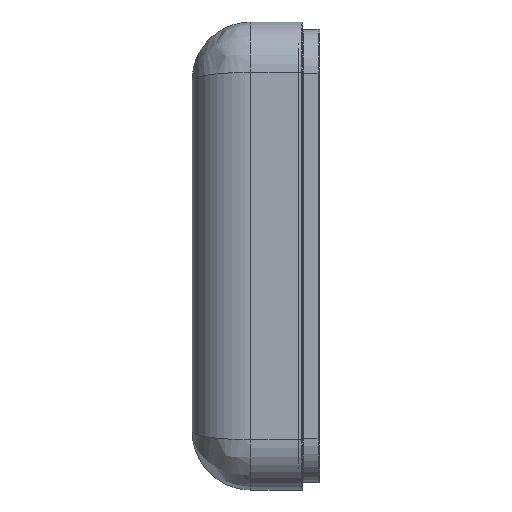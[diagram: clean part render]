
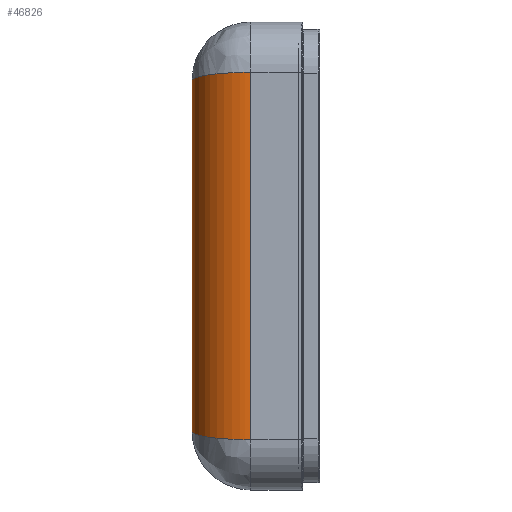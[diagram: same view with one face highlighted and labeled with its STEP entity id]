
A CAD part, left-side view. The second image highlights one B-rep face of the part: STEP entity #46826.
In plain terms, the highlighted cylindrical face has radius 25.4 mm (diameter 50.8 mm), a partial arc.
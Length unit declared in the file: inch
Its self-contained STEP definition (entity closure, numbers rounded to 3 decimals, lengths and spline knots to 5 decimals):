
#389 = VERTEX_POINT ( 'NONE', #29332 ) ;
#1954 =( BOUNDED_CURVE ( )  B_SPLINE_CURVE ( 3, ( #36981, #22550, #33208, #26101 ),
 .UNSPECIFIED., .F., .T. ) 
 B_SPLINE_CURVE_WITH_KNOTS ( ( 4, 4 ),
 ( 1.5708, 3.14159 ),
 .UNSPECIFIED. ) 
 CURVE ( )  GEOMETRIC_REPRESENTATION_ITEM ( )  RATIONAL_B_SPLINE_CURVE ( ( 1., 0.805, 0.805, 1. ) ) 
 REPRESENTATION_ITEM ( '' )  );
#2144 = CARTESIAN_POINT ( 'NONE',  ( -4.7476, 1.18, 3.13823 ) ) ;
#3132 = EDGE_CURVE ( 'NONE', #28519, #389, #17035, .T. ) ;
#4645 = VERTEX_POINT ( 'NONE', #8190 ) ;
#4854 = CARTESIAN_POINT ( 'NONE',  ( -4.7476, 2.18, -2.9976 ) ) ;
#8190 = CARTESIAN_POINT ( 'NONE',  ( -5.7476, 1.18, -3.13823 ) ) ;
#8449 = VECTOR ( 'NONE', #32122, 39.37008 ) ;
#9153 = LINE ( 'NONE', #29240, #8449 ) ;
#9223 = CYLINDRICAL_SURFACE ( 'NONE', #13171, 1. ) ;
#9461 = FACE_OUTER_BOUND ( 'NONE', #43172, .T. ) ;
#10174 = ORIENTED_EDGE ( 'NONE', *, *, #20132, .F. ) ;
#10243 = CARTESIAN_POINT ( 'NONE',  ( -5.33339, 2.18, 3.07998 ) ) ;
#12558 = DIRECTION ( 'NONE',  ( 1., 0., 0. ) ) ;
#12677 = DIRECTION ( 'NONE',  ( 0., 0., -1. ) ) ;
#12789 = DIRECTION ( 'NONE',  ( 0., 0., 1. ) ) ;
#13171 = AXIS2_PLACEMENT_3D ( 'NONE', #2144, #12789, #12558 ) ;
#13792 = CARTESIAN_POINT ( 'NONE',  ( -5.7476, 1.76579, 3.13823 ) ) ;
#17035 =( BOUNDED_CURVE ( )  B_SPLINE_CURVE ( 3, ( #21364, #10243, #13792, #28247 ),
 .UNSPECIFIED., .F., .T. ) 
 B_SPLINE_CURVE_WITH_KNOTS ( ( 4, 4 ),
 ( 1.5708, 3.14159 ),
 .UNSPECIFIED. ) 
 CURVE ( )  GEOMETRIC_REPRESENTATION_ITEM ( )  RATIONAL_B_SPLINE_CURVE ( ( 1., 0.805, 0.805, 1. ) ) 
 REPRESENTATION_ITEM ( '' )  );
#18158 = VECTOR ( 'NONE', #12677, 39.37008 ) ;
#18790 = EDGE_CURVE ( 'NONE', #34465, #4645, #1954, .T. ) ;
#20132 = EDGE_CURVE ( 'NONE', #34465, #28519, #9153, .T. ) ;
#21364 = CARTESIAN_POINT ( 'NONE',  ( -4.7476, 2.18, 2.9976 ) ) ;
#21926 = ORIENTED_EDGE ( 'NONE', *, *, #18790, .T. ) ;
#22550 = CARTESIAN_POINT ( 'NONE',  ( -5.33339, 2.18, -3.07998 ) ) ;
#26101 = CARTESIAN_POINT ( 'NONE',  ( -5.7476, 1.18, -3.13823 ) ) ;
#26173 = CARTESIAN_POINT ( 'NONE',  ( -5.7476, 1.18, -3.13823 ) ) ;
#28247 = CARTESIAN_POINT ( 'NONE',  ( -5.7476, 1.18, 3.13823 ) ) ;
#28519 = VERTEX_POINT ( 'NONE', #30017 ) ;
#28886 = EDGE_CURVE ( 'NONE', #389, #4645, #36816, .T. ) ;
#29240 = CARTESIAN_POINT ( 'NONE',  ( -4.7476, 2.18, 3.13823 ) ) ;
#29332 = CARTESIAN_POINT ( 'NONE',  ( -5.7476, 1.18, 3.13823 ) ) ;
#30017 = CARTESIAN_POINT ( 'NONE',  ( -4.7476, 2.18, 2.9976 ) ) ;
#32122 = DIRECTION ( 'NONE',  ( 0., 0., 1. ) ) ;
#33208 = CARTESIAN_POINT ( 'NONE',  ( -5.7476, 1.76579, -3.13823 ) ) ;
#34465 = VERTEX_POINT ( 'NONE', #4854 ) ;
#36816 = LINE ( 'NONE', #26173, #18158 ) ;
#36981 = CARTESIAN_POINT ( 'NONE',  ( -4.7476, 2.18, -2.9976 ) ) ;
#43172 = EDGE_LOOP ( 'NONE', ( #21926, #43630, #44869, #10174 ) ) ;
#43630 = ORIENTED_EDGE ( 'NONE', *, *, #28886, .F. ) ;
#44869 = ORIENTED_EDGE ( 'NONE', *, *, #3132, .F. ) ;
#46826 = ADVANCED_FACE ( 'NONE', ( #9461 ), #9223, .T. ) ;
